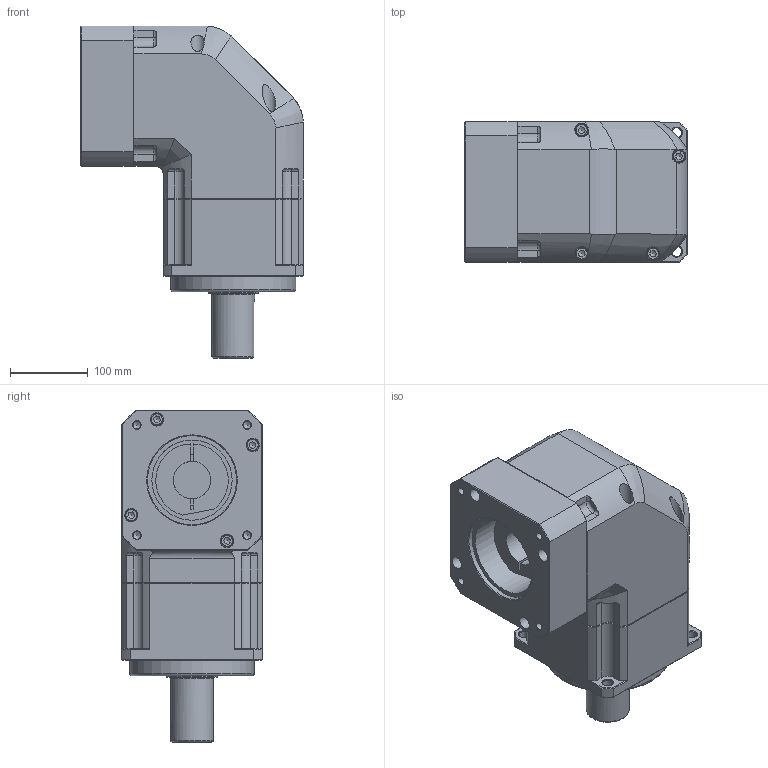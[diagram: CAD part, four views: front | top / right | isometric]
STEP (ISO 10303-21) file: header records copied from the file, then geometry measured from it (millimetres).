
FILE_DESCRIPTION((''),'2;1');
FILE_NAME('C:\Users\nagyu\Desktop\유성감속기-진행자료\도면\3D\2. 홈페이지용 3D 도면 (ipt)\외부도\SPL180\SPLH180 (1STAGE-KEY TYPE).stp','2012-07-23T11:31:16',('nagyu'),(''),'Autodesk Inventor 2012','Autodesk Inventor 2012','');
FILE_SCHEMA(('AUTOMOTIVE_DESIGN { 1 0 10303 214 1 1 1 1 }'));
Length unit declared in the file: millimetre
Products named in the file (2): SPLH180 1단.iam (대체 세부 수준1); SPLH180 1단_대체_1
Assembly tree (1 placements, depth 2):
  SPLH180 1단.iam (대체 세부 수준1)
    SPLH180 1단_대체_1
Bounding box: 286 x 180 x 426 mm (x, y, z)
Volume: 11968897.8 mm3; surface area: 583304.1 mm2
Topology: 11 solids, 11 shells, 419 faces, 1003 edges, 625 vertices
Faces by surface type: plane 192, cylinder 121, cone 74, torus 28, bspline 4
Full cylindrical faces by diameter (mm): 8.376 x4, 10 x8, 10.106 x4, 11 x8, 13 x4, 13.835 x1, 16 x8, 17 x4, 17.294 x1, 17.5 x4, 22 x1, 48 x1, 55 x1, 64.7 x1, 64.8 x1, 103 x1, 114.3 x1, 145 x2, 160 x1
Entity records: 12118 total; most frequent: CARTESIAN_POINT 2760, DIRECTION 1848, ORIENTED_EDGE 1696, EDGE_CURVE 848, AXIS2_PLACEMENT_3D 738, VERTEX_POINT 591, EDGE_LOOP 589, FACE_OUTER_BOUND 419
